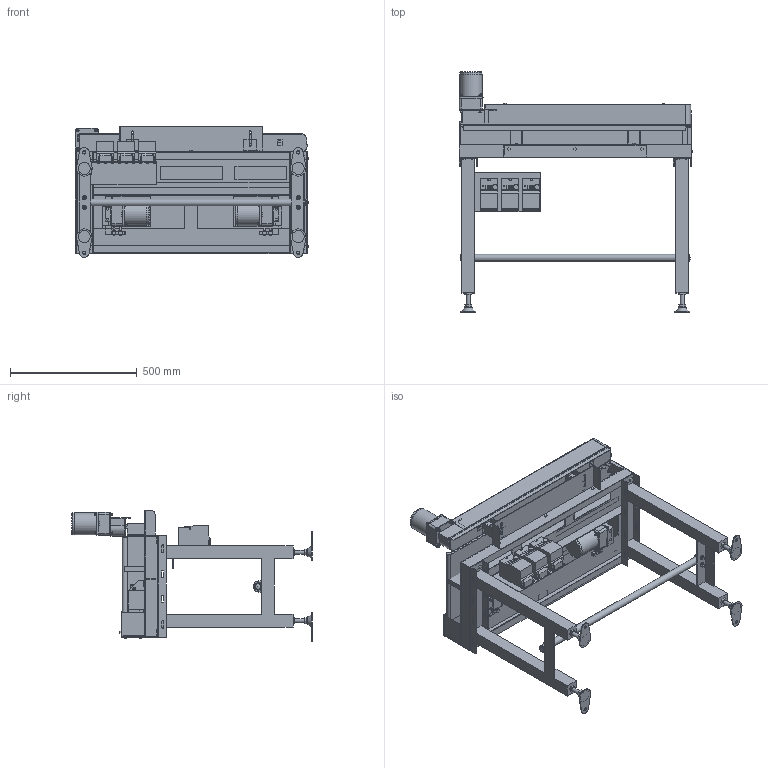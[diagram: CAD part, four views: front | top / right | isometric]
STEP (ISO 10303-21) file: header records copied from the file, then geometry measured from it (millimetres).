
FILE_DESCRIPTION( (''), '2;1');
FILE_NAME ('WEB-SGA-U-304x3-300-L-IVH-15-A.stp','2026-09-19T10:44:43',(''),(''),'spGate 21.9.5 (****-****-****-****)','','');
FILE_SCHEMA (('AUTOMOTIVE_DESIGN'));
Length unit declared in the file: millimetre
Products named in the file (91): WEB-SGA-U-304x3-300-L-IVH-15-A; TEMP_X_T-prt0; TEMP_X_T-prt1; TEMP_X_T-prt2; TEMP_X_T-prt3; TEMP_X_T-prt4; TEMP_X_T-prt5; TEMP_X_T-prt6; TEMP_X_T-prt7; TEMP_X_T-prt8; TEMP_X_T-prt9; TEMP_X_T-prt10; TEMP_X_T-prt11; TEMP_X_T-prt12; TEMP_X_T-prt13; TEMP_X_T-prt14; TEMP_X_T-prt15; TEMP_X_T-prt16; TEMP_X_T-prt17; TEMP_X_T-prt18; TEMP_X_T-prt19; TEMP_X_T-prt20; TEMP_X_T-prt21; TEMP_X_T-prt22; TEMP_X_T-prt23; TEMP_X_T-prt24; TEMP_X_T-prt25; TEMP_X_T-prt26; TEMP_X_T-prt27; TEMP_X_T-prt28; TEMP_X_T-prt29; TEMP_X_T-prt30; TEMP_X_T-prt31; TEMP_X_T-prt32; TEMP_X_T-prt33; TEMP_X_T-prt34; TEMP_X_T-prt35; TEMP_X_T-prt36; TEMP_X_T-prt37; TEMP_X_T-prt38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
Assembly tree (90 placements, depth 2):
  WEB-SGA-U-304x3-300-L-IVH-15-A
    TEMP_X_T-prt0
    TEMP_X_T-prt1
    TEMP_X_T-prt2
    TEMP_X_T-prt3
    TEMP_X_T-prt4
    TEMP_X_T-prt5
    TEMP_X_T-prt6
    TEMP_X_T-prt7
    TEMP_X_T-prt8
    TEMP_X_T-prt9
    TEMP_X_T-prt10
    TEMP_X_T-prt11
    TEMP_X_T-prt12
    TEMP_X_T-prt13
    TEMP_X_T-prt14
    TEMP_X_T-prt15
    TEMP_X_T-prt16
    TEMP_X_T-prt17
    TEMP_X_T-prt18
    TEMP_X_T-prt19
    TEMP_X_T-prt20
    TEMP_X_T-prt21
    TEMP_X_T-prt22
    TEMP_X_T-prt23
    TEMP_X_T-prt24
    TEMP_X_T-prt25
    TEMP_X_T-prt26
    TEMP_X_T-prt27
    TEMP_X_T-prt28
    TEMP_X_T-prt29
    TEMP_X_T-prt30
    TEMP_X_T-prt31
    TEMP_X_T-prt32
    TEMP_X_T-prt33
    TEMP_X_T-prt34
    TEMP_X_T-prt35
    TEMP_X_T-prt36
    TEMP_X_T-prt37
    TEMP_X_T-prt38
    TEMP_X_T-prt39
    TEMP_X_T-prt40
    TEMP_X_T-prt41
    TEMP_X_T-prt42
    TEMP_X_T-prt43
    TEMP_X_T-prt44
    TEMP_X_T-prt45
    TEMP_X_T-prt46
    TEMP_X_T-prt47
    TEMP_X_T-prt48
    TEMP_X_T-prt49
    TEMP_X_T-prt50
    TEMP_X_T-prt51
    TEMP_X_T-prt52
    TEMP_X_T-prt53
    TEMP_X_T-prt54
    TEMP_X_T-prt55
    TEMP_X_T-prt56
    TEMP_X_T-prt57
    TEMP_X_T-prt58
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Bounding box: 920.8 x 948 x 517 mm (x, y, z)
Volume: 22522820 mm3; surface area: 5040399.4 mm2
Topology: 91 solids, 92 shells, 2631 faces, 6780 edges, 4500 vertices
Faces by surface type: plane 1971, cylinder 458, bspline 202
Full cylindrical faces by diameter (mm): 2 x3, 3.3 x9, 4 x18, 5 x15, 5.5 x3, 6 x32, 6.5 x24, 6.6 x12, 7 x4, 8 x8, 8.49 x3, 10 x12, 10.5 x1, 12 x3, 12.5 x12, 13 x4, 16 x8, 17 x4, 20 x7, 22 x1, 27.2 x1, 28 x2, 36 x3, 40 x4, 50 x2, 83 x3, 84 x3, 86.3 x3, 89 x3
Entity records: 140375 total; most frequent: CARTESIAN_POINT 19656, ORIENTED_EDGE 13528, DIRECTION 12942, COLOUR_RGB 9484, PRESENTATION_STYLE_ASSIGNMENT 9484, STYLED_ITEM 9484, EDGE_CURVE 6764, DRAUGHTING_PRE_DEFINED_CURVE_FONT 6764
